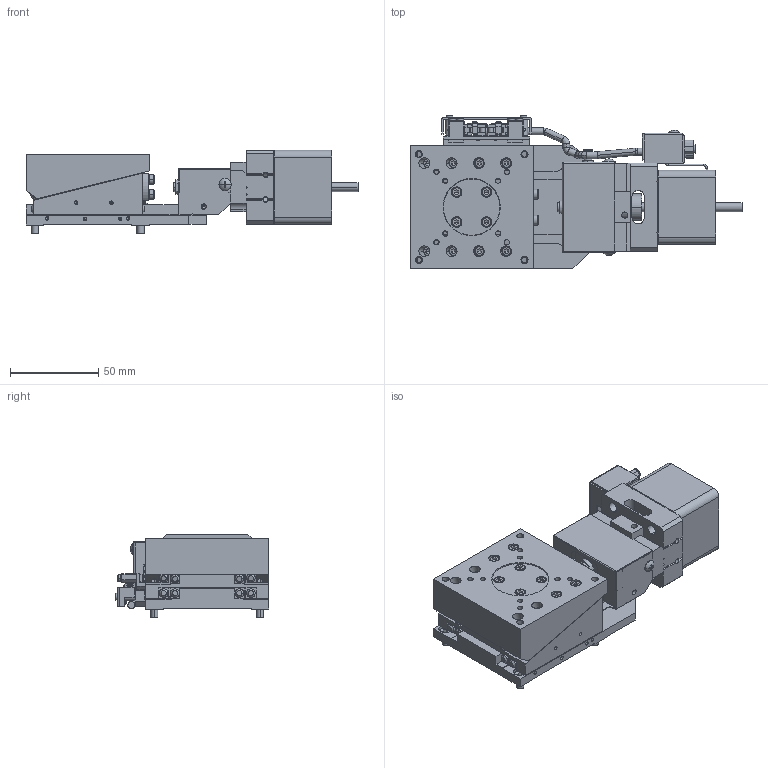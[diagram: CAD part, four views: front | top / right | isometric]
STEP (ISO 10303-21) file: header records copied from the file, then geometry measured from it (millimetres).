
FILE_DESCRIPTION( (''), '2;1');
FILE_NAME ('MVZA07A-W2C02.stp','2021-03-16T10:55:40',(''),(''),'spGate 15.6.6','','');
FILE_SCHEMA (('AUTOMOTIVE_DESIGN'));
Length unit declared in the file: millimetre
Products named in the file (8): Assembly; MVZA07A-W2C02-prt0; MVZA07A-W2C02-prt1; MVZA07A-W2C02-prt2; MVZA07A-W2C02-prt3; MVZA07A-W2C02-prt4; MVZA07A-W2C02-prt5; MVZA07A-W2C02-prt6
Assembly tree (7 placements, depth 2):
  Assembly
    MVZA07A-W2C02-prt0
    MVZA07A-W2C02-prt1
    MVZA07A-W2C02-prt2
    MVZA07A-W2C02-prt3
    MVZA07A-W2C02-prt4
    MVZA07A-W2C02-prt5
    MVZA07A-W2C02-prt6
Bounding box: 188.5 x 87.3 x 47.5 mm (x, y, z)
Volume: 321363.2 mm3; surface area: 107017.8 mm2
Topology: 7 solids, 7 shells, 3282 faces, 8020 edges, 4870 vertices
Faces by surface type: plane 1810, cylinder 931, bspline 510, sphere 31
Entity records: 163419 total; most frequent: CARTESIAN_POINT 25574, ORIENTED_EDGE 15776, DIRECTION 14559, COLOUR_RGB 11177, PRESENTATION_STYLE_ASSIGNMENT 11177, STYLED_ITEM 11177, EDGE_CURVE 7888, DRAUGHTING_PRE_DEFINED_CURVE_FONT 7888
